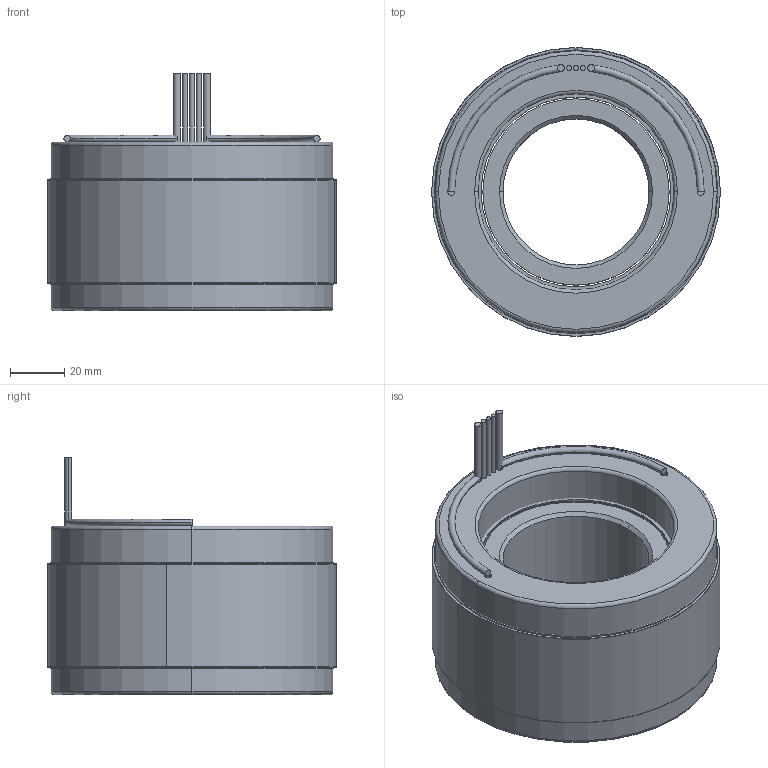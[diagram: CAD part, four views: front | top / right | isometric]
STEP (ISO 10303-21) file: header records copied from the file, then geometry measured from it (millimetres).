
FILE_DESCRIPTION (( 'STEP AP214' ), '1' );
FILE_NAME ('6100329-02.STEP', '2019-10-23T21:32:32', ( '' ), ( '' ), 'SwSTEP 2.0', 'SolidWorks 2016', '' );
FILE_SCHEMA (( 'AUTOMOTIVE_DESIGN' ));
Length unit declared in the file: millimetre
Products named in the file (10): 4450153-XX_4450153-02; 4150160-XX_4150160-02; 4250350-XX_4250350-02; 4400065-00; COMP4500536-XX (COIL)_COMP4500536-02 (COIL); 4500536-XX_4500536-02; 6100329-02; 4600460-00
Assembly tree (10 placements, depth 4):
  6100329-02
    4500536-XX_4500536-02
      4450153-XX_4450153-02
        4450153-XX_4450153-02
        4400065-00
        4400065-00
        4600460-00  x2
      COMP4500536-XX (COIL)_COMP4500536-02 (COIL)
    4250350-XX_4250350-02
      4150160-XX_4150160-02
Bounding box: 106.68 x 106.68 x 87.63 mm (x, y, z)
Volume: 527228.6 mm3; surface area: 133502.8 mm2
Topology: 14 solids, 14 shells, 94 faces, 180 edges, 116 vertices
Faces by surface type: cylinder 48, plane 30, torus 12, cone 4
Entity records: 2735 total; most frequent: DIRECTION 496, CARTESIAN_POINT 380, ORIENTED_EDGE 336, AXIS2_PLACEMENT_3D 224, EDGE_CURVE 168, CIRCLE 120, VERTEX_POINT 108, EDGE_LOOP 102
